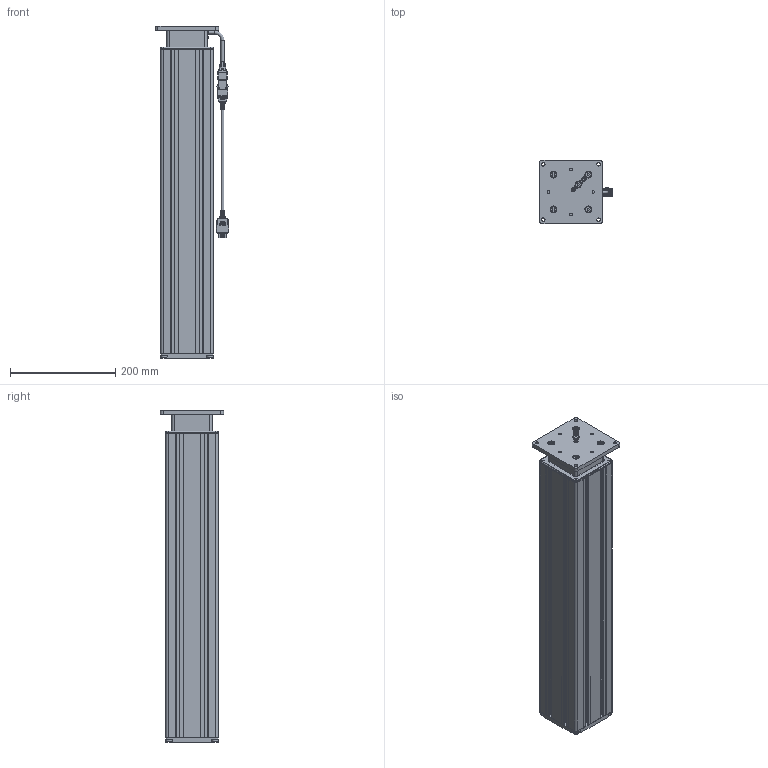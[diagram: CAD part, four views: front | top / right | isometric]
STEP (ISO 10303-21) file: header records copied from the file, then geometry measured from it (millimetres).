
FILE_DESCRIPTION(/* description */ ('Unknown'),/* implementation_level */ '2;1');
FILE_NAME(/* name */ '912.00004_01-eingefahren',/* time_stamp */ '2024-04-08T10:42:25+02:00',/* author */ ('Unknown'),/* organization */ ('Unknown'),/* preprocessor_version */ 'ST-DEVELOPER v18.104',/* originating_system */ 'Solid Edge',/* authorisation */ 'Unknown');
FILE_SCHEMA (('AUTOMOTIVE_DESIGN {1 0 10303 214 3 1 1}'));
Products named in the file (25): 912.00004; 126.00196; 119.00582; 128.00077; 119.00581; 126.00197; 124.00201; 3120_01-01_3D_0; 3120_02-02_3D_0; 3130_48-04_3D_0; HK-1210_0; DIN7380-M5X8-BR-M_0; 3121_17-01_3D_0; 3120_13-01_3D_0; WN1452-K40X14_0; 61801-ZZ_0; 3121_76-05_3D_0; 6001-ZZ_0; 124.00151; 142.00303; 142.00241; 142.00154; 142.00039; 142.00342; Kabel Motor Sx
Assembly tree (39 placements, depth 3):
  912.00004
    126.00196
    119.00582  x4
    128.00077
    119.00581
    126.00197
    124.00201
      3120_01-01_3D_0
      3120_02-02_3D_0
      3130_48-04_3D_0
      HK-1210_0
      DIN7380-M5X8-BR-M_0  x2
      3121_17-01_3D_0
      3120_13-01_3D_0
      WN1452-K40X14_0  x4
      61801-ZZ_0
      3121_76-05_3D_0
      6001-ZZ_0
    124.00151
    142.00303  x4
    142.00241  x2
    142.00154  x4
    142.00039  x2
    142.00342
    Kabel Motor Sx
Bounding box: 139.17 x 120 x 630 mm (x, y, z)
Volume: 2341174.7 mm3; surface area: 1417139.2 mm2
Topology: 51 solids, 52 shells, 3303 faces, 8326 edges, 5263 vertices
Faces by surface type: plane 1402, cylinder 926, torus 461, cone 257, bspline 182, sphere 75
Full cylindrical faces by diameter (mm): 1.5 x6, 1.82 x6, 2 x4, 2.7 x6, 3.464 x2, 3.6 x4, 3.621 x4, 3.65 x2, 3.94 x1, 4 x74, 4.1 x5, 4.134 x5, 4.567 x2, 4.917 x4, 5 x20, 5.1 x2, 5.2 x8, 5.5 x2, 6 x11, 6.02 x1, 6.2 x4, 6.4 x1, 6.5 x4, 6.6 x4, 6.647 x4, 7 x2, 7.4 x4, 8.376 x1, 8.4 x1, 8.5 x1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
Entity records: 93783 total; most frequent: CARTESIAN_POINT 23052, DIRECTION 12599, ORIENTED_EDGE 12236, EDGE_CURVE 6118, AXIS2_PLACEMENT_3D 4772, VERTEX_POINT 4071, FACE_BOUND 3205, EDGE_LOOP 3187
